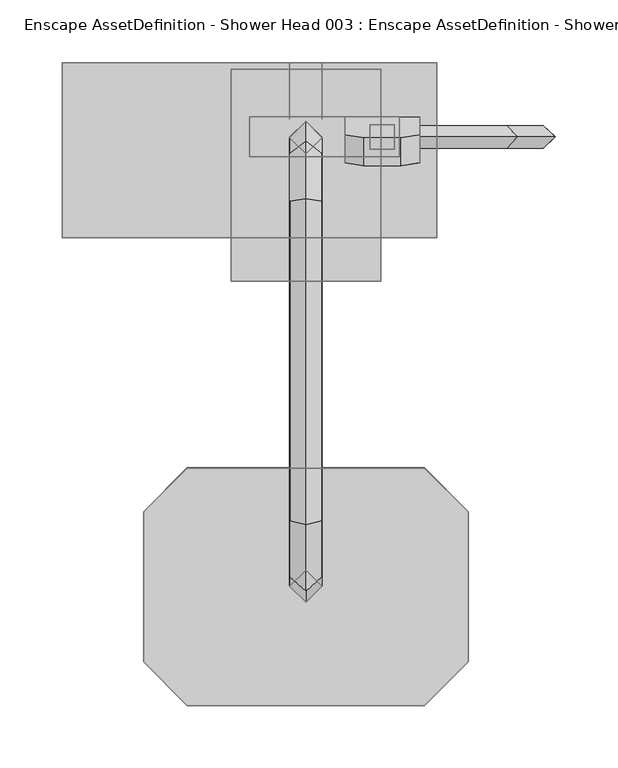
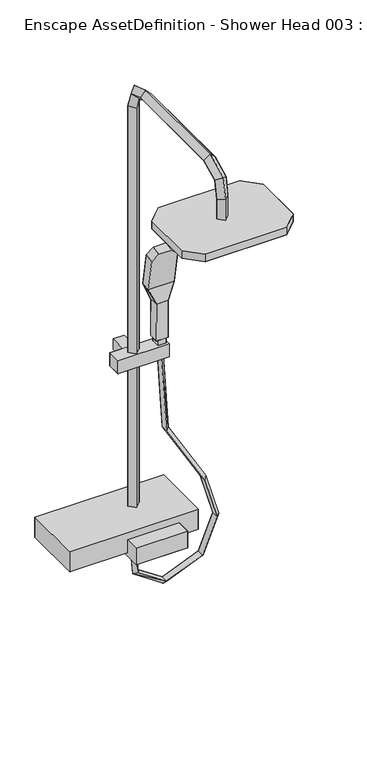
"""IFC4 building model written with IfcOpenShell, lengths in millimetres: geographic element geometry, Enscape AssetDefinition - Shower Head 003 : Enscape AssetDefinition - Shower Head 003."""

from ifc_helpers import new_model, si_unit, origin, place, context, project, spatial, triangles, source, transform, mapped, element, save


def enscape_assetdefinition_shower_head_003_enscape_cfe87c56(model_context):
    return source(origin(), model_context, "Body", "Tessellation", [
        triangles([(-194.9999979, 0.0, 1088.0589495), (-194.9999979, -140.0020013, 1088.0589495), (104.9999954, -140.0020013, 1138.0590225), (-194.9999979, -140.0020013, 1138.0590225), (104.9999954, 0.0, 1088.0589495), (104.9999954, -140.0020013, 1088.0589495), (104.9999954, 0.0, 1138.0590225), (-194.9999979, 0.0, 1138.0590225), (59.9999986, -4.9999997, 1079.8150486), (-59.9999986, -175.0019998, 1079.8150486), (59.9999986, -175.0019998, 1119.8150053), (-59.9999986, -4.9999997, 1079.8150486), (-59.9999986, -4.9999997, 1119.8150053), (-59.9999986, -175.0019998, 1119.8150053), (59.9999986, -175.0019998, 1079.8150486), (59.9999986, -4.9999997, 1119.8150053), (-2.7809999, -68.3090027, 1085.3999548), (-11.4949992, -59.3089979, 1083.1520542), (6.2999998, -68.3100019, 971.8129927), (72.4650036, -50.3100014, 928.3890444), (6.3009996, -50.3100014, 971.8129927), (-1.7590001, -59.3100017, 967.0240408), (-2.7799998, -50.3089977, 1085.3999548), (72.4650036, -68.3100019, 928.3890444), (70.3769997, -59.3100017, 918.0279762), (163.4549938, -59.3100017, 956.0340139), (156.6539918, -68.3100019, 963.1189739), (190.1150126, -68.3100019, 1045.9309977), (156.6539918, -50.3100014, 963.1199913), (190.1140134, -50.3100014, 1045.9309977), (199.6359976, -59.3100017, 1045.3900423), (169.4160035, -59.3100017, 1149.6089716), (160.9960051, -68.3100019, 1146.3229803), (72.2630038, -50.3100014, 1297.9040623), (160.9960051, -50.3100014, 1146.3229803), (72.264003, -68.3100019, 1297.9040623), (60.9710013, -50.3100014, 1484.3909351), (60.9720005, -68.3100019, 1484.3919525), (81.0050029, -59.3100017, 1300.5470695), (69.9030006, -59.3100017, 1485.499007), (75.0000051, -43.2319996, 1484.4888943), (-45.0000013, -43.2319996, 1484.4888943), (-45.0000013, -43.2319996, 1516.6299557), (75.0000051, -75.373002, 1484.4888943), (75.0000051, -75.373002, 1516.6299557), (-45.0000013, -75.373002, 1484.4888943), (-45.0000013, -75.373002, 1516.6299557), (75.0000051, -43.2319996, 1516.6299557), (0.0, -46.8649992, 1134.8680109), (0.0, -62.9379961, 2171.9829769), (13.0000002, -59.8650005, 2123.8279221), (0.0, -46.8649992, 2126.0370895), (13.0000002, -73.1410025, 2161.7798206), (0.0, -72.8650019, 2121.6199173), (0.0, -83.3439953, 2151.576955), (-13.0000002, -111.097997, 2175.0590973), (13.0000002, -59.8650005, 1134.8680109), (-13.0000002, -59.8650005, 2123.8279221), (-13.0000002, -73.1410025, 2161.7798206), (0.0, -108.8900014, 2188.0590305), (0.0, -369.7150057, 2188.0590305), (0.0, -113.307001, 2162.0590187), (0.0, -363.8150024, 2162.0590187), (-13.0000002, -366.7650041, 2175.0590973), (0.0, -422.9879894, 2162.570034), (-13.0000002, -411.3590117, 2153.723045), (13.0000002, -111.097997, 2175.0590973), (13.0000002, -366.7650041, 2175.0590973), (0.0, -399.7310151, 2144.8750385), (13.0000002, -411.3590117, 2153.723045), (0.0, -406.1430147, 2108.8919151), (13.0000002, -418.9409981, 2061.7248814), (0.0, -406.1430147, 2061.7248814), (-13.0000002, -418.9409981, 2111.1728806), (-13.0000002, -418.9409981, 2061.7248814), (0.0, -431.7390178, 2113.4529739), (13.0000002, -418.9409981, 2111.1728806), (0.0, -431.7390178, 2061.7248814), (-13.0000002, -59.8650005, 1134.8680109), (0.0, -72.8650019, 1134.8680109), (-13.0070004, 0.0, 1487.5190872), (13.0510009, 0.0, 1513.5769444), (-13.0070004, 0.0, 1513.5769444), (13.0510009, 0.0, 1487.5190872), (13.0510009, -45.2859985, 1487.5190872), (13.0510009, -45.2859985, 1513.5769444), (-13.0070004, -45.2859985, 1487.5190872), (-13.0070004, -45.2859985, 1513.5769444), (91.223002, -57.5789982, 1740.7030518), (76.223, -60.183999, 1755.4751152), (91.223002, -43.6290003, 1660.6800293), (91.223002, -80.1120069, 1736.7300385), (76.223, -82.7169986, 1751.5021019), (31.2229988, -80.1120069, 1736.7300385), (46.2230007, -82.7169986, 1751.5021019), (46.2230007, -60.183999, 1755.4751152), (91.223002, -66.4780008, 1659.4770504), (31.2229988, -66.4780008, 1659.4770504), (31.2229988, -57.5789982, 1740.7030518), (47.5979986, -70.8140006, 1620.6579082), (74.8480022, -70.8140006, 1620.6579082), (47.5979986, -47.9740021, 1619.3020317), (47.4460002, -47.4819991, 1529.6650612), (74.8480022, -47.9740021, 1619.3020317), (31.2229988, -43.6290003, 1660.6800293), (47.4460002, -70.3620024, 1529.5509693), (75.0000051, -47.4819991, 1529.6650612), (75.0000051, -70.3620024, 1529.5509693), (71.0050001, -69.0840054, 1531.7469109), (51.4419999, -69.0840054, 1531.7469109), (51.4419999, -69.0840054, 1515.9740364), (71.0050001, -69.0840054, 1515.9740364), (51.4419999, -49.5210007, 1531.7469109), (51.4419999, -49.5210007, 1515.9740364), (71.0050001, -49.5210007, 1531.7469109), (71.0050001, -49.5210007, 1515.9740364), (129.9999955, -359.3020148, 2062.4799225), (-94.9999971, -514.3020015, 2044.121014), (94.9999971, -514.3020015, 2062.4799225), (129.9999955, -479.3019939, 2062.4799225), (129.9999955, -359.3020148, 2044.121014), (129.9999955, -479.3019939, 2044.121014), (94.9999971, -514.3020015, 2044.121014), (-129.9999955, -479.3019939, 2044.121014), (94.9999971, -324.301971, 2062.4799225), (-129.9999955, -479.3019939, 2062.4799225), (-94.9999971, -514.3020015, 2062.4799225), (94.9999971, -324.301971, 2044.121014), (-129.9999955, -359.3020148, 2044.121014), (-94.9999971, -324.301971, 2044.121014), (-129.9999955, -359.3020148, 2062.4799225), (-94.9999971, -324.301971, 2062.4799225)], [[125, 132, 126], [132, 131, 126], [126, 131, 129], [131, 132, 130], [130, 129, 131], [132, 125, 128], [128, 130, 132], [121, 128, 125], [129, 124, 126], [124, 130, 128], [124, 129, 130], [127, 126, 124], [125, 126, 127], [124, 118, 127], [118, 124, 128], [121, 123, 128], [123, 118, 128], [121, 122, 123], [125, 117, 121], [122, 121, 117], [117, 120, 122], [123, 122, 120], [119, 127, 118], [118, 123, 119], [120, 119, 123], [119, 125, 127], [119, 117, 125], [119, 120, 117], [112, 116, 115], [116, 114, 113], [113, 115, 116], [114, 111, 110], [110, 113, 114], [115, 109, 112], [111, 112, 109], [109, 110, 111], [103, 107, 108], [108, 106, 103], [91, 105, 99], [102, 103, 106], [102, 105, 91], [104, 107, 103], [103, 102, 104], [91, 104, 102], [107, 104, 101], [101, 108, 107], [106, 108, 101], [106, 100, 102], [105, 102, 100], [101, 100, 106], [100, 98, 105], [99, 105, 98], [104, 91, 97], [97, 101, 104], [97, 98, 100], [100, 101, 97], [92, 97, 91], [98, 94, 99], [94, 98, 97], [97, 92, 94], [96, 99, 94], [94, 95, 96], [93, 95, 94], [94, 92, 93], [91, 89, 92], [93, 92, 89], [99, 89, 91], [89, 90, 93], [90, 96, 95], [95, 93, 90], [99, 96, 90], [90, 89, 99], [87, 88, 83], [83, 81, 87], [85, 87, 81], [86, 85, 84], [81, 84, 85], [82, 83, 88], [88, 86, 82], [84, 82, 86], [81, 83, 82], [82, 84, 81], [58, 79, 80], [78, 72, 77], [77, 76, 78], [65, 76, 77], [75, 78, 76], [73, 75, 74], [76, 74, 75], [74, 71, 73], [72, 73, 71], [71, 77, 72], [70, 77, 71], [77, 70, 65], [69, 71, 74], [71, 69, 70], [74, 66, 69], [66, 74, 76], [76, 65, 66], [63, 69, 66], [68, 70, 69], [69, 63, 68], [67, 68, 63], [68, 67, 60], [50, 60, 67], [61, 65, 70], [70, 68, 61], [60, 61, 68], [66, 64, 63], [64, 66, 65], [65, 61, 64], [62, 63, 64], [63, 62, 67], [64, 56, 62], [56, 64, 61], [61, 60, 56], [59, 56, 60], [60, 50, 59], [58, 59, 50], [59, 58, 54], [80, 54, 58], [54, 80, 57], [55, 62, 56], [56, 59, 55], [54, 55, 59], [53, 67, 62], [62, 55, 53], [67, 53, 50], [51, 53, 55], [55, 54, 51], [57, 51, 54], [51, 57, 49], [52, 50, 53], [53, 51, 52], [50, 52, 58], [49, 52, 51], [79, 58, 52], [52, 49, 79], [47, 45, 48], [48, 43, 47], [47, 43, 42], [42, 46, 47], [45, 47, 46], [48, 45, 44], [46, 44, 45], [41, 42, 43], [43, 48, 41], [44, 41, 48], [46, 42, 41], [41, 44, 46], [39, 40, 38], [34, 37, 40], [40, 39, 34], [38, 36, 39], [37, 34, 36], [36, 38, 37], [32, 39, 36], [35, 34, 39], [39, 32, 35], [36, 33, 32], [34, 35, 33], [33, 36, 34], [31, 32, 33], [30, 35, 32], [32, 31, 30], [33, 28, 31], [35, 30, 28], [28, 33, 35], [26, 31, 28], [29, 30, 31], [31, 26, 29], [28, 27, 26], [30, 29, 27], [27, 28, 30], [25, 26, 27], [20, 29, 26], [26, 25, 20], [27, 24, 25], [29, 20, 24], [24, 27, 29], [22, 25, 24], [22, 18, 23], [21, 20, 25], [25, 22, 21], [23, 21, 22], [24, 19, 22], [20, 21, 19], [19, 24, 20], [18, 22, 19], [19, 17, 18], [21, 23, 17], [17, 19, 21], [16, 13, 14], [14, 11, 16], [16, 11, 15], [13, 16, 9], [15, 9, 16], [14, 13, 12], [9, 12, 13], [12, 10, 14], [11, 14, 10], [10, 15, 11], [9, 15, 10], [10, 12, 9], [7, 8, 4], [4, 3, 7], [7, 3, 6], [8, 7, 5], [6, 5, 7], [4, 8, 1], [5, 1, 8], [1, 2, 4], [3, 4, 2], [2, 6, 3], [5, 6, 2], [2, 1, 5]], closed=False),
    ])


if __name__ == "__main__":
    model = new_model("IFC4")
    model_context = context("Model", 3, world=origin())
    ifc_project = project(units=[si_unit("LENGTHUNIT", "METRE", prefix="MILLI")], contexts=[model_context])
    site = spatial("IfcSite", under=ifc_project)
    building = spatial("IfcBuilding", under=site)
    placement = place(None, origin())
    enscape_assetdefinition_shower_head_003_enscape_shape = enscape_assetdefinition_shower_head_003_enscape_cfe87c56(model_context)
    element("IfcGeographicElement", 1, ObjectType="Enscape AssetDefinition - Shower Head 003 : Enscape AssetDefinition - Shower Head 003", at=placement, inside=building, context=model_context, shape_type="MappedRepresentation", body=[
        mapped(enscape_assetdefinition_shower_head_003_enscape_shape, transform((0.0, 0.0, 0.0), x_axis=(1.0, 0.0, 0.0), y_axis=(0.0, 1.0, 0.0), z_axis=(0.0, 0.0, 1.0))),
    ])
    save(model, "model.ifc")
